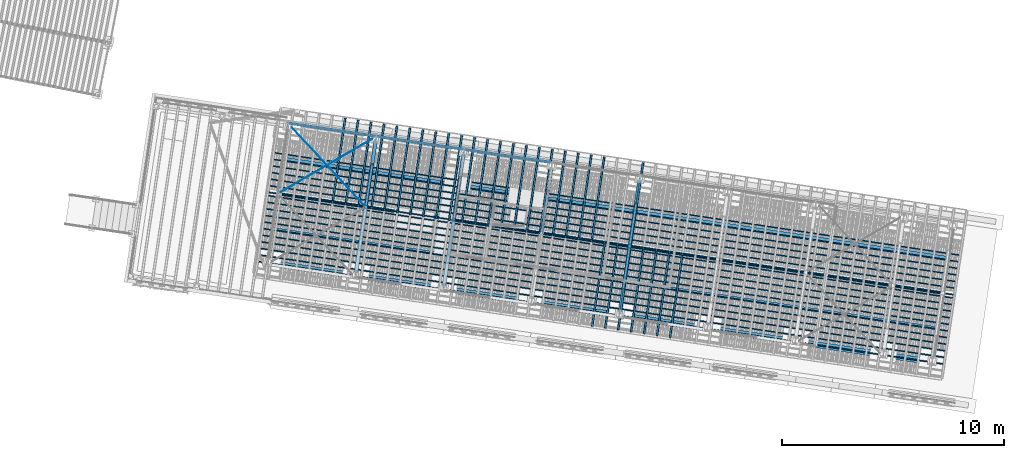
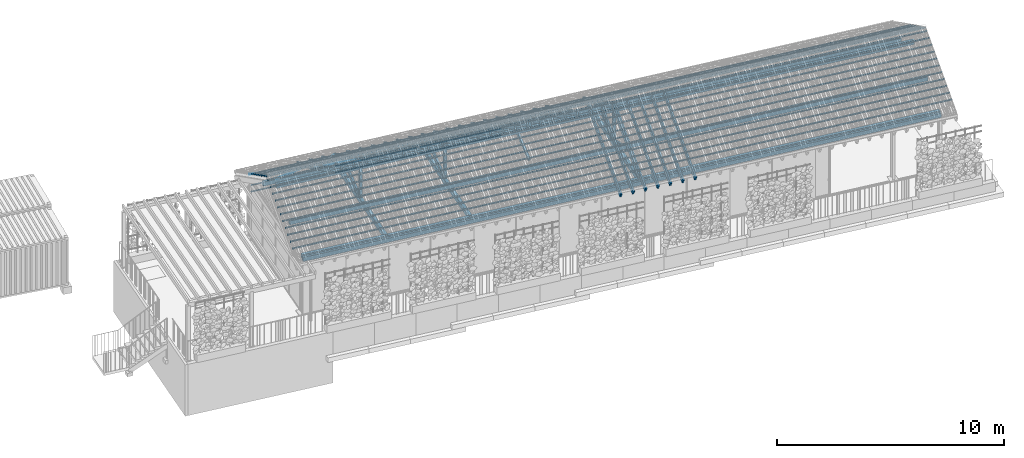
# One storey, part 77 of 128: 68 members, 8 beams, 1 element without a shape of its own.
"""IFC4 building model written with IfcOpenShell, lengths in metres."""

from ifc_helpers import new_model, si_unit, direction, frame, origin_with_axes, place, context, subcontext, project, spatial, rectangle, extrude, material, material_profile, profile_set, profile_usage, type_object, element, aggregate, save


model = new_model("IFC4")

# Units and contexts
model_context = context("Model", 3, precision=1e-05, world=origin_with_axes(), true_north=direction((0.0, 1.0)))
body_context = subcontext(model_context, "Body", "Model", "MODEL_VIEW")
ifc_project = project(units=[si_unit("VOLUMEUNIT", "CUBIC_METRE"), si_unit("LENGTHUNIT", "METRE"), si_unit("AREAUNIT", "SQUARE_METRE")], contexts=[model_context])

# Site, building, storey
site_placement = place(None, origin_with_axes())
site = spatial("IfcSite", under=ifc_project, at=site_placement, Name="Lares · Rua das Mercês · artigo 4771")
building_placement = place(site_placement, frame((15.0, 9.7, 13.9), z_axis=(0.0, 0.0, 1.0), x_axis=(0.989015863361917, -0.147809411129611, 0.0)))
building = spatial("IfcBuilding", under=site, at=building_placement, Name="Casa Sobreposta")
storey_placement = place(building_placement, origin_with_axes())
storey = spatial("IfcBuildingStorey", under=building, at=storey_placement, Name="00 · Habitação e estacionamento", Elevation=13.9)

# Beam
ifc_material_1 = material(Name="Madeira / Bauholz", Category="wood")
ifc_material_profile_1 = material_profile(ifc_material_1, rectangle(XDim=0.16, YDim=0.22))
ifc_profile_set_1 = profile_set([ifc_material_profile_1], Name="TIMBER0.160x0.220")
ifc_profile_usage_1 = profile_usage(ifc_profile_set_1)
beam_type_1 = type_object("IfcBeamType", Name="TIMBER0.160x0.220 / timber", PredefinedType="NOTDEFINED", material=ifc_profile_set_1)
beam_1_placement = place(storey_placement, frame((0.0, 0.12, 3.0), z_axis=(1.0, 0.0, 0.0), x_axis=(0.0, -1.0, 0.0)))
element("IfcBeam", 1, at=beam_1_placement, inside=storey, type_object=beam_type_1, material=ifc_profile_usage_1, Name="Cobertura · frechal longitudinal", context=body_context, shape_type="SweptSolid", body=[
    extrude(rectangle(XDim=0.16, YDim=0.22), origin_with_axes(), (0.0, 0.0, 1.0), 30.22),
])

# Members
ifc_material_2 = material(Name="Aço pintado / Stahl lackiert", Category="steel")
ifc_material_profile_2 = material_profile(ifc_material_2, rectangle(XDim=0.035, YDim=0.035))
ifc_profile_set_2 = profile_set([ifc_material_profile_2], Name="R0.035")
ifc_profile_usage_2 = profile_usage(ifc_profile_set_2)
member_type_1 = type_object("IfcMemberType", Name="R0.035 / steel", PredefinedType="NOTDEFINED", material=ifc_profile_set_2)
member_1_placement = place(storey_placement, frame((0.08, 6.4, 2.35), z_axis=(1.0, 0.0, 0.0), x_axis=(0.0, -1.0, 0.0)))
element("IfcMember", 2, at=member_1_placement, inside=storey, type_object=member_type_1, material=ifc_profile_usage_2, Name="Rasgo norte 1 · travessa", context=body_context, shape_type="SweptSolid", body=[
    extrude(rectangle(XDim=0.035, YDim=0.035), origin_with_axes(), (0.0, 0.0, 1.0), 3.84),
])
ifc_profile_usage_3 = profile_usage(ifc_profile_set_2)
member_2_placement = place(storey_placement, frame((0.08, 6.4, 2.7), z_axis=(1.0, 0.0, 0.0), x_axis=(0.0, -1.0, 0.0)))
element("IfcMember", 3, at=member_2_placement, inside=storey, type_object=member_type_1, material=ifc_profile_usage_3, Name="Rasgo norte 1 · travessa", context=body_context, shape_type="SweptSolid", body=[
    extrude(rectangle(XDim=0.035, YDim=0.035), origin_with_axes(), (0.0, 0.0, 1.0), 3.84),
])
ifc_profile_usage_4 = profile_usage(ifc_profile_set_2)
member_3_placement = place(storey_placement, frame((4.08, 6.4, 2.35), z_axis=(1.0, 0.0, 0.0), x_axis=(0.0, -1.0, 0.0)))
element("IfcMember", 4, at=member_3_placement, inside=storey, type_object=member_type_1, material=ifc_profile_usage_4, Name="Rasgo norte 2 · travessa", context=body_context, shape_type="SweptSolid", body=[
    extrude(rectangle(XDim=0.035, YDim=0.035), origin_with_axes(), (0.0, 0.0, 1.0), 3.84),
])
ifc_profile_usage_5 = profile_usage(ifc_profile_set_2)
member_4_placement = place(storey_placement, frame((4.08, 6.4, 2.7), z_axis=(1.0, 0.0, 0.0), x_axis=(0.0, -1.0, 0.0)))
element("IfcMember", 5, at=member_4_placement, inside=storey, type_object=member_type_1, material=ifc_profile_usage_5, Name="Rasgo norte 2 · travessa", context=body_context, shape_type="SweptSolid", body=[
    extrude(rectangle(XDim=0.035, YDim=0.035), origin_with_axes(), (0.0, 0.0, 1.0), 3.84),
])
ifc_profile_usage_6 = profile_usage(ifc_profile_set_2)
member_5_placement = place(storey_placement, frame((8.08, 6.4, 2.35), z_axis=(1.0, 0.0, 0.0), x_axis=(0.0, -1.0, 0.0)))
element("IfcMember", 6, at=member_5_placement, inside=storey, type_object=member_type_1, material=ifc_profile_usage_6, Name="Rasgo norte 3 · travessa", context=body_context, shape_type="SweptSolid", body=[
    extrude(rectangle(XDim=0.035, YDim=0.035), origin_with_axes(), (0.0, 0.0, 1.0), 3.84),
])
ifc_profile_usage_7 = profile_usage(ifc_profile_set_2)
member_6_placement = place(storey_placement, frame((8.08, 6.4, 2.7), z_axis=(1.0, 0.0, 0.0), x_axis=(0.0, -1.0, 0.0)))
element("IfcMember", 7, at=member_6_placement, inside=storey, type_object=member_type_1, material=ifc_profile_usage_7, Name="Rasgo norte 3 · travessa", context=body_context, shape_type="SweptSolid", body=[
    extrude(rectangle(XDim=0.035, YDim=0.035), origin_with_axes(), (0.0, 0.0, 1.0), 3.84),
])

# Roof, beams, members
roof_placement = place(storey_placement, origin_with_axes())
roof = element("IfcRoof", 8, at=roof_placement, inside=storey, material=ifc_material_1, Name="Cobertura de telha · duas águas 30 graus", PredefinedType="GABLE_ROOF")
ifc_material_profile_3 = material_profile(ifc_material_1, rectangle(XDim=0.16, YDim=0.24))
ifc_profile_set_3 = profile_set([ifc_material_profile_3], Name="TIMBER0.160x0.240")
ifc_profile_usage_8 = profile_usage(ifc_profile_set_3)
beam_type_2 = type_object("IfcBeamType", Name="TIMBER0.160x0.240 / timber", PredefinedType="NOTDEFINED", material=ifc_profile_set_3)
beam_2_placement = place(roof_placement, frame((4.0, 0.12, 3.02), z_axis=(0.0, 1.0, 0.0), x_axis=(1.0, 0.0, 0.0)))
beam_2 = element("IfcBeam", 9, at=beam_2_placement, type_object=beam_type_2, material=ifc_profile_usage_8, Name="Tesoura · tirante inferior", context=body_context, shape_type="SweptSolid", body=[
    extrude(rectangle(XDim=0.16, YDim=0.24), origin_with_axes(), (0.0, 0.0, 1.0), 6.16),
])
ifc_profile_usage_9 = profile_usage(ifc_profile_set_3)
beam_3_placement = place(roof_placement, frame((8.0, 0.12, 3.02), z_axis=(0.0, 1.0, 0.0), x_axis=(1.0, 0.0, 0.0)))
beam_3 = element("IfcBeam", 10, at=beam_3_placement, type_object=beam_type_2, material=ifc_profile_usage_9, Name="Tesoura · tirante inferior", context=body_context, shape_type="SweptSolid", body=[
    extrude(rectangle(XDim=0.16, YDim=0.24), origin_with_axes(), (0.0, 0.0, 1.0), 6.16),
])
ifc_profile_usage_10 = profile_usage(ifc_profile_set_3)
beam_4_placement = place(roof_placement, frame((16.0, 0.12, 3.02), z_axis=(0.0, 1.0, 0.0), x_axis=(1.0, 0.0, 0.0)))
beam_4 = element("IfcBeam", 11, at=beam_4_placement, type_object=beam_type_2, material=ifc_profile_usage_10, Name="Tesoura · tirante inferior", context=body_context, shape_type="SweptSolid", body=[
    extrude(rectangle(XDim=0.16, YDim=0.24), origin_with_axes(), (0.0, 0.0, 1.0), 6.16),
])
ifc_material_profile_4 = material_profile(ifc_material_1, rectangle(XDim=0.16, YDim=0.24))
ifc_profile_set_4 = profile_set([ifc_material_profile_4], Name="TIMBER0.160x0.240")
ifc_profile_usage_11 = profile_usage(ifc_profile_set_4)
member_type_2 = type_object("IfcMemberType", Name="TIMBER0.160x0.240 / timber", PredefinedType="NOTDEFINED", material=ifc_profile_set_4)
member_7_placement = place(roof_placement, frame((4.0, 3.2, 5.0225208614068), z_axis=(0.0, 0.866025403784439, -0.5), x_axis=(1.0, 0.0, 0.0)))
member_7 = element("IfcMember", 12, at=member_7_placement, type_object=member_type_2, material=ifc_profile_usage_11, Name="Tesoura · perna", context=body_context, shape_type="SweptSolid", body=[
    extrude(rectangle(XDim=0.16, YDim=0.24), origin_with_axes(), (0.0, 0.0, 1.0), 3.5564776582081),
])
ifc_profile_usage_12 = profile_usage(ifc_profile_set_4)
member_8_placement = place(roof_placement, frame((8.0, 3.2, 5.0225208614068), z_axis=(0.0, 0.866025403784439, -0.5), x_axis=(1.0, 0.0, 0.0)))
member_8 = element("IfcMember", 13, at=member_8_placement, type_object=member_type_2, material=ifc_profile_usage_12, Name="Tesoura · perna", context=body_context, shape_type="SweptSolid", body=[
    extrude(rectangle(XDim=0.16, YDim=0.24), origin_with_axes(), (0.0, 0.0, 1.0), 3.5564776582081),
])
ifc_profile_usage_13 = profile_usage(ifc_profile_set_4)
member_9_placement = place(roof_placement, frame((12.0, 3.2, 5.0225208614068), z_axis=(0.0, 0.866025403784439, -0.5), x_axis=(1.0, 0.0, 0.0)))
member_9 = element("IfcMember", 14, at=member_9_placement, type_object=member_type_2, material=ifc_profile_usage_13, Name="Tesoura · perna", context=body_context, shape_type="SweptSolid", body=[
    extrude(rectangle(XDim=0.16, YDim=0.24), origin_with_axes(), (0.0, 0.0, 1.0), 3.5564776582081),
])
ifc_profile_usage_14 = profile_usage(ifc_profile_set_4)
member_10_placement = place(roof_placement, frame((16.0, 0.12, 3.24428203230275), z_axis=(0.0, 0.866025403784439, 0.5), x_axis=(1.0, 0.0, 0.0)))
member_10 = element("IfcMember", 15, at=member_10_placement, type_object=member_type_2, material=ifc_profile_usage_14, Name="Tesoura · perna", context=body_context, shape_type="SweptSolid", body=[
    extrude(rectangle(XDim=0.16, YDim=0.24), origin_with_axes(), (0.0, 0.0, 1.0), 3.5564776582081),
])
ifc_profile_usage_15 = profile_usage(ifc_profile_set_4)
member_11_placement = place(roof_placement, frame((16.0, 3.2, 5.0225208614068), z_axis=(0.0, 0.866025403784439, -0.5), x_axis=(1.0, 0.0, 0.0)))
member_11 = element("IfcMember", 16, at=member_11_placement, type_object=member_type_2, material=ifc_profile_usage_15, Name="Tesoura · perna", context=body_context, shape_type="SweptSolid", body=[
    extrude(rectangle(XDim=0.16, YDim=0.24), origin_with_axes(), (0.0, 0.0, 1.0), 3.5564776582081),
])
ifc_material_profile_5 = material_profile(ifc_material_1, rectangle(XDim=0.14, YDim=0.14))
ifc_profile_set_5 = profile_set([ifc_material_profile_5], Name="TIMBER0.140x0.140")
ifc_profile_usage_16 = profile_usage(ifc_profile_set_5)
member_type_3 = type_object("IfcMemberType", Name="TIMBER0.140x0.140 / timber", PredefinedType="NOTDEFINED", material=ifc_profile_set_5)
member_12_placement = place(roof_placement, frame((4.0, 3.2, 3.02), z_axis=(0.0, 0.0, 1.0), x_axis=(1.0, 0.0, 0.0)))
member_12 = element("IfcMember", 17, at=member_12_placement, type_object=member_type_3, material=ifc_profile_usage_16, Name="Tesoura · pendural", context=body_context, shape_type="SweptSolid", body=[
    extrude(rectangle(XDim=0.14, YDim=0.14), origin_with_axes(), (0.0, 0.0, 1.0), 2.0025208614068),
])
ifc_profile_usage_17 = profile_usage(ifc_profile_set_5)
member_13_placement = place(roof_placement, frame((8.0, 3.2, 3.02), z_axis=(0.0, 0.0, 1.0), x_axis=(1.0, 0.0, 0.0)))
member_13 = element("IfcMember", 18, at=member_13_placement, type_object=member_type_3, material=ifc_profile_usage_17, Name="Tesoura · pendural", context=body_context, shape_type="SweptSolid", body=[
    extrude(rectangle(XDim=0.14, YDim=0.14), origin_with_axes(), (0.0, 0.0, 1.0), 2.0025208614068),
])
ifc_profile_usage_18 = profile_usage(ifc_profile_set_5)
member_14_placement = place(roof_placement, frame((16.0, 3.2, 3.02), z_axis=(0.0, 0.0, 1.0), x_axis=(1.0, 0.0, 0.0)))
member_14 = element("IfcMember", 19, at=member_14_placement, type_object=member_type_3, material=ifc_profile_usage_18, Name="Tesoura · pendural", context=body_context, shape_type="SweptSolid", body=[
    extrude(rectangle(XDim=0.14, YDim=0.14), origin_with_axes(), (0.0, 0.0, 1.0), 2.0025208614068),
])
ifc_material_profile_6 = material_profile(ifc_material_1, rectangle(XDim=0.1, YDim=0.16))
ifc_profile_set_6 = profile_set([ifc_material_profile_6], Name="TIMBER0.100x0.160")
ifc_profile_usage_19 = profile_usage(ifc_profile_set_6)
member_type_4 = type_object("IfcMemberType", Name="TIMBER0.100x0.160 / timber", PredefinedType="NOTDEFINED", material=ifc_profile_set_6)
member_15_placement = place(roof_placement, frame((4.0, 3.2, 3.1), z_axis=(0.0, 0.937832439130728, 0.347088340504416), x_axis=(1.0, 0.0, 0.0)))
member_15 = element("IfcMember", 20, at=member_15_placement, type_object=member_type_4, material=ifc_profile_usage_19, Name="Tesoura · escora", context=body_context, shape_type="SweptSolid", body=[
    extrude(rectangle(XDim=0.1, YDim=0.16), origin_with_axes(), (0.0, 0.0, 1.0), 2.07926268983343),
])
ifc_profile_usage_20 = profile_usage(ifc_profile_set_6)
member_16_placement = place(roof_placement, frame((8.0, 3.2, 3.1), z_axis=(0.0, 0.937832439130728, 0.347088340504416), x_axis=(1.0, 0.0, 0.0)))
member_16 = element("IfcMember", 21, at=member_16_placement, type_object=member_type_4, material=ifc_profile_usage_20, Name="Tesoura · escora", context=body_context, shape_type="SweptSolid", body=[
    extrude(rectangle(XDim=0.1, YDim=0.16), origin_with_axes(), (0.0, 0.0, 1.0), 2.07926268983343),
])
ifc_profile_usage_21 = profile_usage(ifc_profile_set_6)
member_17_placement = place(roof_placement, frame((12.0, 3.2, 3.1), z_axis=(0.0, 0.937832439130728, 0.347088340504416), x_axis=(1.0, 0.0, 0.0)))
member_17 = element("IfcMember", 22, at=member_17_placement, type_object=member_type_4, material=ifc_profile_usage_21, Name="Tesoura · escora", context=body_context, shape_type="SweptSolid", body=[
    extrude(rectangle(XDim=0.1, YDim=0.16), origin_with_axes(), (0.0, 0.0, 1.0), 2.07926268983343),
])
ifc_profile_usage_22 = profile_usage(ifc_profile_set_6)
member_18_placement = place(roof_placement, frame((16.0, 3.2, 3.1), z_axis=(0.0, -0.937832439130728, 0.347088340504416), x_axis=(-1.0, 0.0, 0.0)))
member_18 = element("IfcMember", 23, at=member_18_placement, type_object=member_type_4, material=ifc_profile_usage_22, Name="Tesoura · escora", context=body_context, shape_type="SweptSolid", body=[
    extrude(rectangle(XDim=0.1, YDim=0.16), origin_with_axes(), (0.0, 0.0, 1.0), 2.07926268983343),
])
ifc_profile_usage_23 = profile_usage(ifc_profile_set_6)
member_19_placement = place(roof_placement, frame((16.0, 3.2, 3.1), z_axis=(0.0, 0.937832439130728, 0.347088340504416), x_axis=(1.0, 0.0, 0.0)))
member_19 = element("IfcMember", 24, at=member_19_placement, type_object=member_type_4, material=ifc_profile_usage_23, Name="Tesoura · escora", context=body_context, shape_type="SweptSolid", body=[
    extrude(rectangle(XDim=0.1, YDim=0.16), origin_with_axes(), (0.0, 0.0, 1.0), 2.07926268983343),
])
ifc_material_profile_7 = material_profile(ifc_material_1, rectangle(XDim=0.08, YDim=0.24))
ifc_profile_set_7 = profile_set([ifc_material_profile_7], Name="TIMBER0.080x0.240")
ifc_profile_usage_24 = profile_usage(ifc_profile_set_7)
member_type_5 = type_object("IfcMemberType", Name="TIMBER0.080x0.240 / timber", PredefinedType="NOTDEFINED", material=ifc_profile_set_7)
member_20_placement = place(roof_placement, frame((2.49528301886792, 3.2, 5.0285208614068), z_axis=(0.0, 0.866025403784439, -0.5), x_axis=(1.0, 0.0, 0.0)))
member_20 = element("IfcMember", 25, at=member_20_placement, type_object=member_type_5, material=ifc_profile_usage_24, Name="Cobertura · caibro", context=body_context, shape_type="SweptSolid", body=[
    extrude(rectangle(XDim=0.08, YDim=0.24), origin_with_axes(), (0.0, 0.0, 1.0), 4.33012701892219),
])
ifc_profile_usage_25 = profile_usage(ifc_profile_set_7)
member_21_placement = place(roof_placement, frame((3.08433962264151, 3.2, 5.0285208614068), z_axis=(0.0, 0.866025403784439, -0.5), x_axis=(1.0, 0.0, 0.0)))
member_21 = element("IfcMember", 26, at=member_21_placement, type_object=member_type_5, material=ifc_profile_usage_25, Name="Cobertura · caibro", context=body_context, shape_type="SweptSolid", body=[
    extrude(rectangle(XDim=0.08, YDim=0.24), origin_with_axes(), (0.0, 0.0, 1.0), 4.33012701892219),
])
ifc_profile_usage_26 = profile_usage(ifc_profile_set_7)
member_22_placement = place(roof_placement, frame((3.67339622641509, 3.2, 5.0285208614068), z_axis=(0.0, 0.866025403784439, -0.5), x_axis=(1.0, 0.0, 0.0)))
member_22 = element("IfcMember", 27, at=member_22_placement, type_object=member_type_5, material=ifc_profile_usage_26, Name="Cobertura · caibro", context=body_context, shape_type="SweptSolid", body=[
    extrude(rectangle(XDim=0.08, YDim=0.24), origin_with_axes(), (0.0, 0.0, 1.0), 4.33012701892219),
])
ifc_profile_usage_27 = profile_usage(ifc_profile_set_7)
member_23_placement = place(roof_placement, frame((4.26245283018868, 3.2, 5.0285208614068), z_axis=(0.0, 0.866025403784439, -0.5), x_axis=(1.0, 0.0, 0.0)))
member_23 = element("IfcMember", 28, at=member_23_placement, type_object=member_type_5, material=ifc_profile_usage_27, Name="Cobertura · caibro", context=body_context, shape_type="SweptSolid", body=[
    extrude(rectangle(XDim=0.08, YDim=0.24), origin_with_axes(), (0.0, 0.0, 1.0), 4.33012701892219),
])
ifc_profile_usage_28 = profile_usage(ifc_profile_set_7)
member_24_placement = place(roof_placement, frame((4.85150943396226, 3.2, 5.0285208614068), z_axis=(0.0, 0.866025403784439, -0.5), x_axis=(1.0, 0.0, 0.0)))
member_24 = element("IfcMember", 29, at=member_24_placement, type_object=member_type_5, material=ifc_profile_usage_28, Name="Cobertura · caibro", context=body_context, shape_type="SweptSolid", body=[
    extrude(rectangle(XDim=0.08, YDim=0.24), origin_with_axes(), (0.0, 0.0, 1.0), 4.33012701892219),
])
ifc_profile_usage_29 = profile_usage(ifc_profile_set_7)
member_25_placement = place(roof_placement, frame((5.44056603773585, 3.2, 5.0285208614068), z_axis=(0.0, 0.866025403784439, -0.5), x_axis=(1.0, 0.0, 0.0)))
member_25 = element("IfcMember", 30, at=member_25_placement, type_object=member_type_5, material=ifc_profile_usage_29, Name="Cobertura · caibro", context=body_context, shape_type="SweptSolid", body=[
    extrude(rectangle(XDim=0.08, YDim=0.24), origin_with_axes(), (0.0, 0.0, 1.0), 4.33012701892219),
])
ifc_profile_usage_30 = profile_usage(ifc_profile_set_7)
member_26_placement = place(roof_placement, frame((6.02962264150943, 3.2, 5.0285208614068), z_axis=(0.0, 0.866025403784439, -0.5), x_axis=(1.0, 0.0, 0.0)))
member_26 = element("IfcMember", 31, at=member_26_placement, type_object=member_type_5, material=ifc_profile_usage_30, Name="Cobertura · caibro", context=body_context, shape_type="SweptSolid", body=[
    extrude(rectangle(XDim=0.08, YDim=0.24), origin_with_axes(), (0.0, 0.0, 1.0), 4.33012701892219),
])
ifc_profile_usage_31 = profile_usage(ifc_profile_set_7)
member_27_placement = place(roof_placement, frame((6.61867924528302, 3.2, 5.0285208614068), z_axis=(0.0, 0.866025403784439, -0.5), x_axis=(1.0, 0.0, 0.0)))
member_27 = element("IfcMember", 32, at=member_27_placement, type_object=member_type_5, material=ifc_profile_usage_31, Name="Cobertura · caibro", context=body_context, shape_type="SweptSolid", body=[
    extrude(rectangle(XDim=0.08, YDim=0.24), origin_with_axes(), (0.0, 0.0, 1.0), 4.33012701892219),
])
ifc_profile_usage_32 = profile_usage(ifc_profile_set_7)
member_28_placement = place(roof_placement, frame((7.2077358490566, 3.2, 5.0285208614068), z_axis=(0.0, 0.866025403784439, -0.5), x_axis=(1.0, 0.0, 0.0)))
member_28 = element("IfcMember", 33, at=member_28_placement, type_object=member_type_5, material=ifc_profile_usage_32, Name="Cobertura · caibro", context=body_context, shape_type="SweptSolid", body=[
    extrude(rectangle(XDim=0.08, YDim=0.24), origin_with_axes(), (0.0, 0.0, 1.0), 4.33012701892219),
])
ifc_profile_usage_33 = profile_usage(ifc_profile_set_7)
member_29_placement = place(roof_placement, frame((7.79679245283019, 3.2, 5.0285208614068), z_axis=(0.0, 0.866025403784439, -0.5), x_axis=(1.0, 0.0, 0.0)))
member_29 = element("IfcMember", 34, at=member_29_placement, type_object=member_type_5, material=ifc_profile_usage_33, Name="Cobertura · caibro", context=body_context, shape_type="SweptSolid", body=[
    extrude(rectangle(XDim=0.08, YDim=0.24), origin_with_axes(), (0.0, 0.0, 1.0), 4.33012701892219),
])
ifc_profile_usage_34 = profile_usage(ifc_profile_set_7)
member_30_placement = place(roof_placement, frame((8.38584905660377, 3.2, 5.0285208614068), z_axis=(0.0, 0.866025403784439, -0.5), x_axis=(1.0, 0.0, 0.0)))
member_30 = element("IfcMember", 35, at=member_30_placement, type_object=member_type_5, material=ifc_profile_usage_34, Name="Cobertura · caibro", context=body_context, shape_type="SweptSolid", body=[
    extrude(rectangle(XDim=0.08, YDim=0.24), origin_with_axes(), (0.0, 0.0, 1.0), 4.33012701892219),
])
ifc_profile_usage_35 = profile_usage(ifc_profile_set_7)
member_31_placement = place(roof_placement, frame((8.97490566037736, 3.2, 5.0285208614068), z_axis=(0.0, 0.866025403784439, -0.5), x_axis=(1.0, 0.0, 0.0)))
member_31 = element("IfcMember", 36, at=member_31_placement, type_object=member_type_5, material=ifc_profile_usage_35, Name="Cobertura · caibro", context=body_context, shape_type="SweptSolid", body=[
    extrude(rectangle(XDim=0.08, YDim=0.24), origin_with_axes(), (0.0, 0.0, 1.0), 4.33012701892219),
])
ifc_profile_usage_36 = profile_usage(ifc_profile_set_7)
member_32_placement = place(roof_placement, frame((9.56396226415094, 3.2, 5.0285208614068), z_axis=(0.0, 0.866025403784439, -0.5), x_axis=(1.0, 0.0, 0.0)))
member_32 = element("IfcMember", 37, at=member_32_placement, type_object=member_type_5, material=ifc_profile_usage_36, Name="Cobertura · caibro", context=body_context, shape_type="SweptSolid", body=[
    extrude(rectangle(XDim=0.08, YDim=0.24), origin_with_axes(), (0.0, 0.0, 1.0), 4.33012701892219),
])
ifc_profile_usage_37 = profile_usage(ifc_profile_set_7)
member_33_placement = place(roof_placement, frame((10.1530188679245, 3.2, 5.0285208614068), z_axis=(0.0, 0.866025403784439, -0.5), x_axis=(1.0, 0.0, 0.0)))
member_33 = element("IfcMember", 38, at=member_33_placement, type_object=member_type_5, material=ifc_profile_usage_37, Name="Cobertura · caibro", context=body_context, shape_type="SweptSolid", body=[
    extrude(rectangle(XDim=0.08, YDim=0.24), origin_with_axes(), (0.0, 0.0, 1.0), 4.33012701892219),
])
ifc_profile_usage_38 = profile_usage(ifc_profile_set_7)
member_34_placement = place(roof_placement, frame((10.7420754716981, 3.2, 5.0285208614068), z_axis=(0.0, 0.866025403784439, -0.5), x_axis=(1.0, 0.0, 0.0)))
member_34 = element("IfcMember", 39, at=member_34_placement, type_object=member_type_5, material=ifc_profile_usage_38, Name="Cobertura · caibro", context=body_context, shape_type="SweptSolid", body=[
    extrude(rectangle(XDim=0.08, YDim=0.24), origin_with_axes(), (0.0, 0.0, 1.0), 4.33012701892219),
])
ifc_profile_usage_39 = profile_usage(ifc_profile_set_7)
member_35_placement = place(roof_placement, frame((11.3311320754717, 3.2, 5.0285208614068), z_axis=(0.0, 0.866025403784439, -0.5), x_axis=(1.0, 0.0, 0.0)))
member_35 = element("IfcMember", 40, at=member_35_placement, type_object=member_type_5, material=ifc_profile_usage_39, Name="Cobertura · caibro", context=body_context, shape_type="SweptSolid", body=[
    extrude(rectangle(XDim=0.08, YDim=0.24), origin_with_axes(), (0.0, 0.0, 1.0), 4.33012701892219),
])
ifc_profile_usage_40 = profile_usage(ifc_profile_set_7)
member_36_placement = place(roof_placement, frame((11.9201886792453, 3.2, 5.0285208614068), z_axis=(0.0, 0.866025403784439, -0.5), x_axis=(1.0, 0.0, 0.0)))
member_36 = element("IfcMember", 41, at=member_36_placement, type_object=member_type_5, material=ifc_profile_usage_40, Name="Cobertura · caibro", context=body_context, shape_type="SweptSolid", body=[
    extrude(rectangle(XDim=0.08, YDim=0.24), origin_with_axes(), (0.0, 0.0, 1.0), 4.33012701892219),
])
ifc_profile_usage_41 = profile_usage(ifc_profile_set_7)
member_37_placement = place(roof_placement, frame((12.5092452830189, 3.2, 5.0285208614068), z_axis=(0.0, 0.866025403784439, -0.5), x_axis=(1.0, 0.0, 0.0)))
member_37 = element("IfcMember", 42, at=member_37_placement, type_object=member_type_5, material=ifc_profile_usage_41, Name="Cobertura · caibro", context=body_context, shape_type="SweptSolid", body=[
    extrude(rectangle(XDim=0.08, YDim=0.24), origin_with_axes(), (0.0, 0.0, 1.0), 4.33012701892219),
])
ifc_profile_usage_42 = profile_usage(ifc_profile_set_7)
member_38_placement = place(roof_placement, frame((13.0983018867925, 3.2, 5.0285208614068), z_axis=(0.0, 0.866025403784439, -0.5), x_axis=(1.0, 0.0, 0.0)))
member_38 = element("IfcMember", 43, at=member_38_placement, type_object=member_type_5, material=ifc_profile_usage_42, Name="Cobertura · caibro", context=body_context, shape_type="SweptSolid", body=[
    extrude(rectangle(XDim=0.08, YDim=0.24), origin_with_axes(), (0.0, 0.0, 1.0), 4.33012701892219),
])
ifc_profile_usage_43 = profile_usage(ifc_profile_set_7)
member_39_placement = place(roof_placement, frame((13.687358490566, 3.2, 5.0285208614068), z_axis=(0.0, 0.866025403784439, -0.5), x_axis=(1.0, 0.0, 0.0)))
member_39 = element("IfcMember", 44, at=member_39_placement, type_object=member_type_5, material=ifc_profile_usage_43, Name="Cobertura · caibro", context=body_context, shape_type="SweptSolid", body=[
    extrude(rectangle(XDim=0.08, YDim=0.24), origin_with_axes(), (0.0, 0.0, 1.0), 4.33012701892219),
])
ifc_profile_usage_44 = profile_usage(ifc_profile_set_7)
member_40_placement = place(roof_placement, frame((14.2764150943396, 3.2, 5.0285208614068), z_axis=(0.0, 0.866025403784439, -0.5), x_axis=(1.0, 0.0, 0.0)))
member_40 = element("IfcMember", 45, at=member_40_placement, type_object=member_type_5, material=ifc_profile_usage_44, Name="Cobertura · caibro", context=body_context, shape_type="SweptSolid", body=[
    extrude(rectangle(XDim=0.08, YDim=0.24), origin_with_axes(), (0.0, 0.0, 1.0), 4.33012701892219),
])
ifc_profile_usage_45 = profile_usage(ifc_profile_set_7)
member_41_placement = place(roof_placement, frame((14.8654716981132, -0.55, 2.86345735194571), z_axis=(0.0, 0.866025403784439, 0.5), x_axis=(1.0, 0.0, 0.0)))
member_41 = element("IfcMember", 46, at=member_41_placement, type_object=member_type_5, material=ifc_profile_usage_45, Name="Cobertura · caibro", context=body_context, shape_type="SweptSolid", body=[
    extrude(rectangle(XDim=0.08, YDim=0.24), origin_with_axes(), (0.0, 0.0, 1.0), 4.33012701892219),
])
ifc_profile_usage_46 = profile_usage(ifc_profile_set_7)
member_42_placement = place(roof_placement, frame((15.4545283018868, -0.55, 2.86345735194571), z_axis=(0.0, 0.866025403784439, 0.5), x_axis=(1.0, 0.0, 0.0)))
member_42 = element("IfcMember", 47, at=member_42_placement, type_object=member_type_5, material=ifc_profile_usage_46, Name="Cobertura · caibro", context=body_context, shape_type="SweptSolid", body=[
    extrude(rectangle(XDim=0.08, YDim=0.24), origin_with_axes(), (0.0, 0.0, 1.0), 4.33012701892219),
])
ifc_profile_usage_47 = profile_usage(ifc_profile_set_7)
member_43_placement = place(roof_placement, frame((16.0435849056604, -0.55, 2.86345735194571), z_axis=(0.0, 0.866025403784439, 0.5), x_axis=(1.0, 0.0, 0.0)))
member_43 = element("IfcMember", 48, at=member_43_placement, type_object=member_type_5, material=ifc_profile_usage_47, Name="Cobertura · caibro", context=body_context, shape_type="SweptSolid", body=[
    extrude(rectangle(XDim=0.08, YDim=0.24), origin_with_axes(), (0.0, 0.0, 1.0), 4.33012701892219),
])
ifc_profile_usage_48 = profile_usage(ifc_profile_set_7)
member_44_placement = place(roof_placement, frame((16.0435849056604, 3.2, 5.0285208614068), z_axis=(0.0, 0.866025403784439, -0.5), x_axis=(1.0, 0.0, 0.0)))
member_44 = element("IfcMember", 49, at=member_44_placement, type_object=member_type_5, material=ifc_profile_usage_48, Name="Cobertura · caibro", context=body_context, shape_type="SweptSolid", body=[
    extrude(rectangle(XDim=0.08, YDim=0.24), origin_with_axes(), (0.0, 0.0, 1.0), 4.33012701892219),
])
ifc_profile_usage_49 = profile_usage(ifc_profile_set_7)
member_45_placement = place(roof_placement, frame((16.632641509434, -0.55, 2.86345735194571), z_axis=(0.0, 0.866025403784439, 0.5), x_axis=(1.0, 0.0, 0.0)))
member_45 = element("IfcMember", 50, at=member_45_placement, type_object=member_type_5, material=ifc_profile_usage_49, Name="Cobertura · caibro", context=body_context, shape_type="SweptSolid", body=[
    extrude(rectangle(XDim=0.08, YDim=0.24), origin_with_axes(), (0.0, 0.0, 1.0), 4.33012701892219),
])
ifc_profile_usage_50 = profile_usage(ifc_profile_set_7)
member_46_placement = place(roof_placement, frame((17.2216981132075, -0.55, 2.86345735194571), z_axis=(0.0, 0.866025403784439, 0.5), x_axis=(1.0, 0.0, 0.0)))
member_46 = element("IfcMember", 51, at=member_46_placement, type_object=member_type_5, material=ifc_profile_usage_50, Name="Cobertura · caibro", context=body_context, shape_type="SweptSolid", body=[
    extrude(rectangle(XDim=0.08, YDim=0.24), origin_with_axes(), (0.0, 0.0, 1.0), 4.33012701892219),
])
ifc_profile_usage_51 = profile_usage(ifc_profile_set_7)
member_47_placement = place(roof_placement, frame((17.8107547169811, -0.55, 2.86345735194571), z_axis=(0.0, 0.866025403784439, 0.5), x_axis=(1.0, 0.0, 0.0)))
member_47 = element("IfcMember", 52, at=member_47_placement, type_object=member_type_5, material=ifc_profile_usage_51, Name="Cobertura · caibro", context=body_context, shape_type="SweptSolid", body=[
    extrude(rectangle(XDim=0.08, YDim=0.24), origin_with_axes(), (0.0, 0.0, 1.0), 4.33012701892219),
])
ifc_profile_usage_52 = profile_usage(ifc_profile_set_7)
member_48_placement = place(roof_placement, frame((18.3998113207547, -0.55, 2.86345735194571), z_axis=(0.0, 0.866025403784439, 0.5), x_axis=(1.0, 0.0, 0.0)))
member_48 = element("IfcMember", 53, at=member_48_placement, type_object=member_type_5, material=ifc_profile_usage_52, Name="Cobertura · caibro", context=body_context, shape_type="SweptSolid", body=[
    extrude(rectangle(XDim=0.08, YDim=0.24), origin_with_axes(), (0.0, 0.0, 1.0), 4.33012701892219),
])
ifc_material_profile_8 = material_profile(ifc_material_1, rectangle(XDim=0.14, YDim=0.22))
ifc_profile_set_8 = profile_set([ifc_material_profile_8], Name="TIMBER0.140x0.220")
ifc_profile_usage_53 = profile_usage(ifc_profile_set_8)
beam_type_3 = type_object("IfcBeamType", Name="TIMBER0.140x0.220 / timber", PredefinedType="NOTDEFINED", material=ifc_profile_set_8)
beam_5_placement = place(roof_placement, frame((0.0, 0.0, 2.93), z_axis=(1.0, 0.0, 0.0), x_axis=(0.0, -1.0, 0.0)))
beam_5 = element("IfcBeam", 54, at=beam_5_placement, type_object=beam_type_3, material=ifc_profile_usage_53, Name="Cobertura · terça", context=body_context, shape_type="SweptSolid", body=[
    extrude(rectangle(XDim=0.14, YDim=0.22), origin_with_axes(), (0.0, 0.0, 1.0), 30.22),
])
ifc_profile_usage_54 = profile_usage(ifc_profile_set_8)
beam_6_placement = place(roof_placement, frame((0.0, 1.6, 3.8537604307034), z_axis=(1.0, 0.0, 0.0), x_axis=(0.0, -1.0, 0.0)))
beam_6 = element("IfcBeam", 55, at=beam_6_placement, type_object=beam_type_3, material=ifc_profile_usage_54, Name="Cobertura · terça", context=body_context, shape_type="SweptSolid", body=[
    extrude(rectangle(XDim=0.14, YDim=0.22), origin_with_axes(), (0.0, 0.0, 1.0), 30.22),
])
ifc_profile_usage_55 = profile_usage(ifc_profile_set_8)
beam_7_placement = place(roof_placement, frame((0.0, 3.2, 4.7775208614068), z_axis=(1.0, 0.0, 0.0), x_axis=(0.0, -1.0, 0.0)))
beam_7 = element("IfcBeam", 56, at=beam_7_placement, type_object=beam_type_3, material=ifc_profile_usage_55, Name="Cobertura · terça", context=body_context, shape_type="SweptSolid", body=[
    extrude(rectangle(XDim=0.14, YDim=0.22), origin_with_axes(), (0.0, 0.0, 1.0), 30.22),
])
ifc_profile_usage_56 = profile_usage(ifc_profile_set_8)
beam_8_placement = place(roof_placement, frame((0.0, 4.8, 3.8537604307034), z_axis=(1.0, 0.0, 0.0), x_axis=(0.0, -1.0, 0.0)))
beam_8 = element("IfcBeam", 57, at=beam_8_placement, type_object=beam_type_3, material=ifc_profile_usage_56, Name="Cobertura · terça", context=body_context, shape_type="SweptSolid", body=[
    extrude(rectangle(XDim=0.14, YDim=0.22), origin_with_axes(), (0.0, 0.0, 1.0), 30.22),
])
ifc_material_3 = material(Name="Aço galvanizado / Stahl verzinkt", Category="steel")
ifc_material_profile_9 = material_profile(ifc_material_3, rectangle(XDim=0.025, YDim=0.025))
ifc_profile_set_9 = profile_set([ifc_material_profile_9], Name="R0.025")
ifc_profile_usage_57 = profile_usage(ifc_profile_set_9)
member_type_6 = type_object("IfcMemberType", Name="R0.025 / galvanized", PredefinedType="NOTDEFINED", material=ifc_profile_set_9)
member_49_placement = place(roof_placement, frame((0.0, 3.2, 5.1495208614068), z_axis=(0.734553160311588, 0.58764252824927, -0.339275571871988), x_axis=(0.624695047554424, -0.78086880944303, 0.0)))
member_49 = element("IfcMember", 58, at=member_49_placement, type_object=member_type_6, material=ifc_profile_usage_57, Name="Cobertura · fita de contraventamento", context=body_context, shape_type="SweptSolid", body=[
    extrude(rectangle(XDim=0.025, YDim=0.025), origin_with_axes(), (0.0, 0.0, 1.0), 5.44548742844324),
])
ifc_profile_usage_58 = profile_usage(ifc_profile_set_9)
member_50_placement = place(roof_placement, frame((0.0, 6.4, 3.302), z_axis=(0.734553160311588, -0.58764252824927, 0.339275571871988), x_axis=(-0.624695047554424, -0.78086880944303, 0.0)))
member_50 = element("IfcMember", 59, at=member_50_placement, type_object=member_type_6, material=ifc_profile_usage_58, Name="Cobertura · fita de contraventamento", context=body_context, shape_type="SweptSolid", body=[
    extrude(rectangle(XDim=0.025, YDim=0.025), origin_with_axes(), (0.0, 0.0, 1.0), 5.44548742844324),
])
ifc_material_profile_10 = material_profile(ifc_material_1, rectangle(XDim=0.045, YDim=0.06))
ifc_profile_set_10 = profile_set([ifc_material_profile_10], Name="TIMBER0.045x0.060")
ifc_profile_usage_59 = profile_usage(ifc_profile_set_10)
member_type_7 = type_object("IfcMemberType", Name="TIMBER0.045x0.060 / timber", PredefinedType="NOTDEFINED", material=ifc_profile_set_10)
member_51_placement = place(roof_placement, frame((-0.45, 0.0499999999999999, 3.56286751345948), z_axis=(1.0, 0.0, 0.0), x_axis=(0.0, -1.0, 0.0)))
member_51 = element("IfcMember", 60, at=member_51_placement, type_object=member_type_7, material=ifc_profile_usage_59, Name="Cobertura · ripa ventilada", context=body_context, shape_type="SweptSolid", body=[
    extrude(rectangle(XDim=0.045, YDim=0.06), origin_with_axes(), (0.0, 0.0, 1.0), 31.22),
])
ifc_profile_usage_60 = profile_usage(ifc_profile_set_10)
member_52_placement = place(roof_placement, frame((-0.45, 0.35, 3.73607259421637), z_axis=(1.0, 0.0, 0.0), x_axis=(0.0, -1.0, 0.0)))
member_52 = element("IfcMember", 61, at=member_52_placement, type_object=member_type_7, material=ifc_profile_usage_60, Name="Cobertura · ripa ventilada", context=body_context, shape_type="SweptSolid", body=[
    extrude(rectangle(XDim=0.045, YDim=0.06), origin_with_axes(), (0.0, 0.0, 1.0), 31.22),
])
ifc_profile_usage_61 = profile_usage(ifc_profile_set_10)
member_53_placement = place(roof_placement, frame((-0.45, 0.65, 3.90927767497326), z_axis=(1.0, 0.0, 0.0), x_axis=(0.0, -1.0, 0.0)))
member_53 = element("IfcMember", 62, at=member_53_placement, type_object=member_type_7, material=ifc_profile_usage_61, Name="Cobertura · ripa ventilada", context=body_context, shape_type="SweptSolid", body=[
    extrude(rectangle(XDim=0.045, YDim=0.06), origin_with_axes(), (0.0, 0.0, 1.0), 31.22),
])
ifc_profile_usage_62 = profile_usage(ifc_profile_set_10)
member_54_placement = place(roof_placement, frame((-0.45, 0.95, 4.08248275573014), z_axis=(1.0, 0.0, 0.0), x_axis=(0.0, -1.0, 0.0)))
member_54 = element("IfcMember", 63, at=member_54_placement, type_object=member_type_7, material=ifc_profile_usage_62, Name="Cobertura · ripa ventilada", context=body_context, shape_type="SweptSolid", body=[
    extrude(rectangle(XDim=0.045, YDim=0.06), origin_with_axes(), (0.0, 0.0, 1.0), 31.22),
])
ifc_profile_usage_63 = profile_usage(ifc_profile_set_10)
member_55_placement = place(roof_placement, frame((-0.45, 1.25, 4.25568783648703), z_axis=(1.0, 0.0, 0.0), x_axis=(0.0, -1.0, 0.0)))
member_55 = element("IfcMember", 64, at=member_55_placement, type_object=member_type_7, material=ifc_profile_usage_63, Name="Cobertura · ripa ventilada", context=body_context, shape_type="SweptSolid", body=[
    extrude(rectangle(XDim=0.045, YDim=0.06), origin_with_axes(), (0.0, 0.0, 1.0), 31.22),
])
ifc_profile_usage_64 = profile_usage(ifc_profile_set_10)
member_56_placement = place(roof_placement, frame((-0.45, 1.55, 4.42889291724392), z_axis=(1.0, 0.0, 0.0), x_axis=(0.0, -1.0, 0.0)))
member_56 = element("IfcMember", 65, at=member_56_placement, type_object=member_type_7, material=ifc_profile_usage_64, Name="Cobertura · ripa ventilada", context=body_context, shape_type="SweptSolid", body=[
    extrude(rectangle(XDim=0.045, YDim=0.06), origin_with_axes(), (0.0, 0.0, 1.0), 31.22),
])
ifc_profile_usage_65 = profile_usage(ifc_profile_set_10)
member_57_placement = place(roof_placement, frame((-0.45, 1.85, 4.60209799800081), z_axis=(1.0, 0.0, 0.0), x_axis=(0.0, -1.0, 0.0)))
member_57 = element("IfcMember", 66, at=member_57_placement, type_object=member_type_7, material=ifc_profile_usage_65, Name="Cobertura · ripa ventilada", context=body_context, shape_type="SweptSolid", body=[
    extrude(rectangle(XDim=0.045, YDim=0.06), origin_with_axes(), (0.0, 0.0, 1.0), 31.22),
])
ifc_profile_usage_66 = profile_usage(ifc_profile_set_10)
member_58_placement = place(roof_placement, frame((-0.45, 2.15, 4.7753030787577), z_axis=(1.0, 0.0, 0.0), x_axis=(0.0, -1.0, 0.0)))
member_58 = element("IfcMember", 67, at=member_58_placement, type_object=member_type_7, material=ifc_profile_usage_66, Name="Cobertura · ripa ventilada", context=body_context, shape_type="SweptSolid", body=[
    extrude(rectangle(XDim=0.045, YDim=0.06), origin_with_axes(), (0.0, 0.0, 1.0), 31.22),
])
ifc_profile_usage_67 = profile_usage(ifc_profile_set_10)
member_59_placement = place(roof_placement, frame((-0.45, 2.45, 4.94850815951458), z_axis=(1.0, 0.0, 0.0), x_axis=(0.0, -1.0, 0.0)))
member_59 = element("IfcMember", 68, at=member_59_placement, type_object=member_type_7, material=ifc_profile_usage_67, Name="Cobertura · ripa ventilada", context=body_context, shape_type="SweptSolid", body=[
    extrude(rectangle(XDim=0.045, YDim=0.06), origin_with_axes(), (0.0, 0.0, 1.0), 31.22),
])
ifc_profile_usage_68 = profile_usage(ifc_profile_set_10)
member_60_placement = place(roof_placement, frame((-0.45, 2.75, 5.12171324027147), z_axis=(1.0, 0.0, 0.0), x_axis=(0.0, -1.0, 0.0)))
member_60 = element("IfcMember", 69, at=member_60_placement, type_object=member_type_7, material=ifc_profile_usage_68, Name="Cobertura · ripa ventilada", context=body_context, shape_type="SweptSolid", body=[
    extrude(rectangle(XDim=0.045, YDim=0.06), origin_with_axes(), (0.0, 0.0, 1.0), 31.22),
])
ifc_profile_usage_69 = profile_usage(ifc_profile_set_10)
member_61_placement = place(roof_placement, frame((-0.45, 3.05, 5.29491832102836), z_axis=(1.0, 0.0, 0.0), x_axis=(0.0, -1.0, 0.0)))
member_61 = element("IfcMember", 70, at=member_61_placement, type_object=member_type_7, material=ifc_profile_usage_69, Name="Cobertura · ripa ventilada", context=body_context, shape_type="SweptSolid", body=[
    extrude(rectangle(XDim=0.045, YDim=0.06), origin_with_axes(), (0.0, 0.0, 1.0), 31.22),
])
ifc_profile_usage_70 = profile_usage(ifc_profile_set_10)
member_62_placement = place(roof_placement, frame((-0.45, 3.2, 5.3815208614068), z_axis=(1.0, 0.0, 0.0), x_axis=(0.0, -1.0, 0.0)))
member_62 = element("IfcMember", 71, at=member_62_placement, type_object=member_type_7, material=ifc_profile_usage_70, Name="Cobertura · ripa ventilada", context=body_context, shape_type="SweptSolid", body=[
    extrude(rectangle(XDim=0.045, YDim=0.06), origin_with_axes(), (0.0, 0.0, 1.0), 31.22),
])
ifc_profile_usage_71 = profile_usage(ifc_profile_set_10)
member_63_placement = place(roof_placement, frame((-0.45, 3.5, 5.20831578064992), z_axis=(1.0, 0.0, 0.0), x_axis=(0.0, -1.0, 0.0)))
member_63 = element("IfcMember", 72, at=member_63_placement, type_object=member_type_7, material=ifc_profile_usage_71, Name="Cobertura · ripa ventilada", context=body_context, shape_type="SweptSolid", body=[
    extrude(rectangle(XDim=0.045, YDim=0.06), origin_with_axes(), (0.0, 0.0, 1.0), 31.22),
])
ifc_profile_usage_72 = profile_usage(ifc_profile_set_10)
member_64_placement = place(roof_placement, frame((-0.45, 3.8, 5.03511069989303), z_axis=(1.0, 0.0, 0.0), x_axis=(0.0, -1.0, 0.0)))
member_64 = element("IfcMember", 73, at=member_64_placement, type_object=member_type_7, material=ifc_profile_usage_72, Name="Cobertura · ripa ventilada", context=body_context, shape_type="SweptSolid", body=[
    extrude(rectangle(XDim=0.045, YDim=0.06), origin_with_axes(), (0.0, 0.0, 1.0), 31.22),
])
ifc_profile_usage_73 = profile_usage(ifc_profile_set_10)
member_65_placement = place(roof_placement, frame((-0.45, 4.1, 4.86190561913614), z_axis=(1.0, 0.0, 0.0), x_axis=(0.0, -1.0, 0.0)))
member_65 = element("IfcMember", 74, at=member_65_placement, type_object=member_type_7, material=ifc_profile_usage_73, Name="Cobertura · ripa ventilada", context=body_context, shape_type="SweptSolid", body=[
    extrude(rectangle(XDim=0.045, YDim=0.06), origin_with_axes(), (0.0, 0.0, 1.0), 31.22),
])
ifc_profile_usage_74 = profile_usage(ifc_profile_set_10)
member_66_placement = place(roof_placement, frame((-0.45, 4.4, 4.68870053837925), z_axis=(1.0, 0.0, 0.0), x_axis=(0.0, -1.0, 0.0)))
member_66 = element("IfcMember", 75, at=member_66_placement, type_object=member_type_7, material=ifc_profile_usage_74, Name="Cobertura · ripa ventilada", context=body_context, shape_type="SweptSolid", body=[
    extrude(rectangle(XDim=0.045, YDim=0.06), origin_with_axes(), (0.0, 0.0, 1.0), 31.22),
])
ifc_profile_usage_75 = profile_usage(ifc_profile_set_10)
member_67_placement = place(roof_placement, frame((-0.45, 4.7, 4.51549545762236), z_axis=(1.0, 0.0, 0.0), x_axis=(0.0, -1.0, 0.0)))
member_67 = element("IfcMember", 76, at=member_67_placement, type_object=member_type_7, material=ifc_profile_usage_75, Name="Cobertura · ripa ventilada", context=body_context, shape_type="SweptSolid", body=[
    extrude(rectangle(XDim=0.045, YDim=0.06), origin_with_axes(), (0.0, 0.0, 1.0), 31.22),
])
ifc_profile_usage_76 = profile_usage(ifc_profile_set_10)
member_68_placement = place(roof_placement, frame((-0.45, 5.0, 4.34229037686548), z_axis=(1.0, 0.0, 0.0), x_axis=(0.0, -1.0, 0.0)))
member_68 = element("IfcMember", 77, at=member_68_placement, type_object=member_type_7, material=ifc_profile_usage_76, Name="Cobertura · ripa ventilada", context=body_context, shape_type="SweptSolid", body=[
    extrude(rectangle(XDim=0.045, YDim=0.06), origin_with_axes(), (0.0, 0.0, 1.0), 31.22),
])
aggregate(roof, [beam_2, member_7, member_12, member_15, beam_3, member_8, member_13, member_16, member_9, member_17, beam_4, member_10, member_11, member_14, member_18, member_19, member_20, member_21, member_22, member_23, member_24, member_25, member_26, member_27, member_28, member_29, member_30, member_31, member_32, member_33, member_34, member_35, member_36, member_37, member_38, member_39, member_40, member_41, member_42, member_43, member_44, member_45, member_46, member_47, member_48, beam_5, beam_6, beam_7, beam_8, member_49, member_50, member_51, member_52, member_53, member_54, member_55, member_56, member_57, member_58, member_59, member_60, member_61, member_62, member_63, member_64, member_65, member_66, member_67, member_68])

save(model, "model.ifc")
